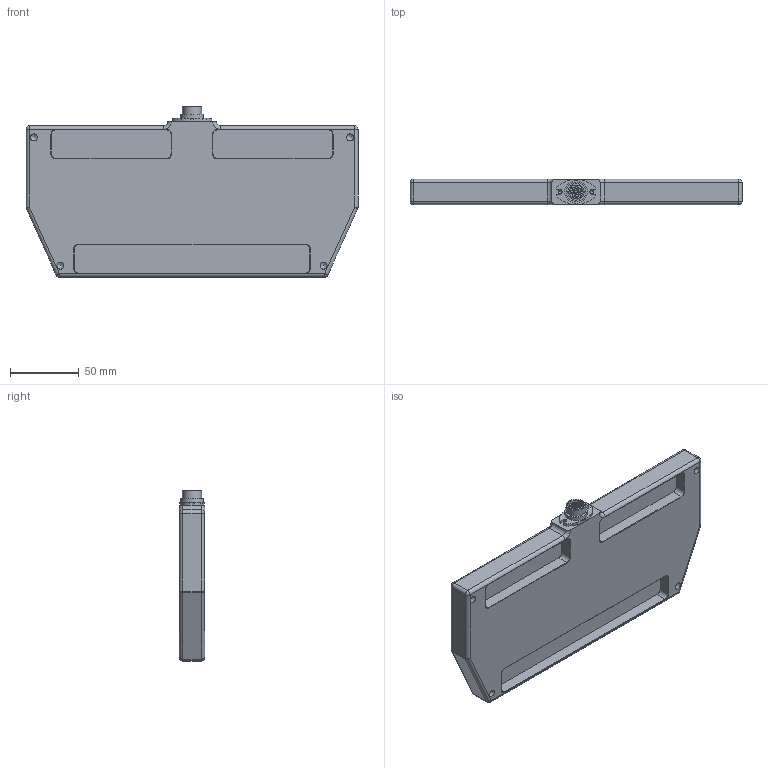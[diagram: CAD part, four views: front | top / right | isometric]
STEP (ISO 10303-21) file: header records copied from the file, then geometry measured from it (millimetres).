
FILE_DESCRIPTION (( 'STEP AP214' ), '1' );
FILE_NAME ('ARS-KB-H Rev 2.STEP', '2017-02-22T02:11:28', ( '' ), ( '' ), 'SwSTEP 2.0', 'SolidWorks 2015', '' );
FILE_SCHEMA (( 'AUTOMOTIVE_DESIGN' ));
Length unit declared in the file: millimetre
Products named in the file (4): SL-79-KEYPAD; 79-KB3-LAP R1; LEMO PBN-1M-308-XLP; ARS-KB-H Rev 2
Assembly tree (3 placements, depth 2):
  ARS-KB-H Rev 2
    79-KB3-LAP R1
    LEMO PBN-1M-308-XLP
    SL-79-KEYPAD
Bounding box: 241.3 x 18.5 x 123.8 mm (x, y, z)
Volume: 214255 mm3; surface area: 130200.5 mm2
Topology: 3 solids, 3 shells, 400 faces, 1016 edges, 645 vertices
Faces by surface type: plane 157, cylinder 120, bspline 83, torus 16, cone 12, sphere 12
Full cylindrical faces by diameter (mm): 2.003 x8, 2.261 x2, 5.105 x4, 9.7 x1, 9.85 x1, 10.5 x1, 12.5 x1, 14 x1, 14.5 x1, 16.5 x2, 16.7 x1
Entity records: 17290 total; most frequent: CARTESIAN_POINT 6637, ORIENTED_EDGE 1934, DIRECTION 1716, EDGE_CURVE 967, VERTEX_POINT 637, AXIS2_PLACEMENT_3D 592, VECTOR 532, LINE 532
